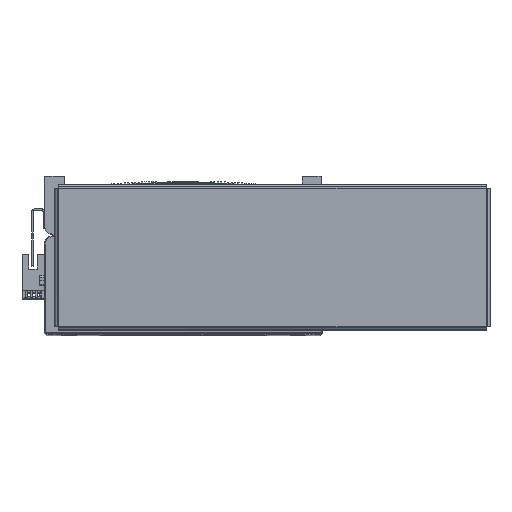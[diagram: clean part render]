
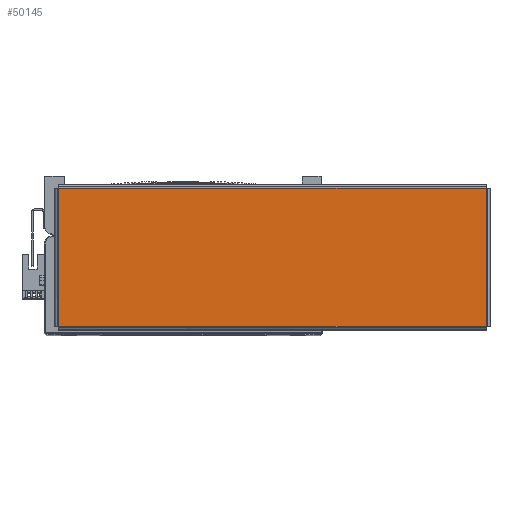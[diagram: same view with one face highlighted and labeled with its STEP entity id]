
A CAD part, top view. The second image highlights one B-rep face of the part: STEP entity #50145.
In plain terms, the highlighted planar face has unit normal (0, 0, 1) as drawn and (0, -1, 0) by its records, which use the part's own axes.
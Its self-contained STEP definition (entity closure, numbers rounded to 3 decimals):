
#6621 = EDGE_LOOP ( 'NONE', ( #52286, #52282, #52293, #52278 ) ) ;
#10077 = AXIS2_PLACEMENT_3D ( 'NONE', #57326, #57327, #57328 ) ;
#26305 = DIRECTION ( 'NONE',  ( 0., 0., -1. ) ) ;
#26311 = CARTESIAN_POINT ( 'NONE',  ( -130.863, -1.5, 42.293 ) ) ;
#26411 = DIRECTION ( 'NONE',  ( -1., 0., 0. ) ) ;
#26424 = CARTESIAN_POINT ( 'NONE',  ( 130.893, -1.5, 42.263 ) ) ;
#26488 = CARTESIAN_POINT ( 'NONE',  ( -130.893, -1.5, -42.263 ) ) ;
#26516 = DIRECTION ( 'NONE',  ( 1., 0., 0. ) ) ;
#26650 = DIRECTION ( 'NONE',  ( 0., 0., 1. ) ) ;
#26657 = CARTESIAN_POINT ( 'NONE',  ( 130.863, -1.5, -42.293 ) ) ;
#27774 = CARTESIAN_POINT ( 'NONE',  ( -130.863, -1.5, -42.263 ) ) ;
#27802 = CARTESIAN_POINT ( 'NONE',  ( 130.863, -1.5, 42.263 ) ) ;
#27854 = CARTESIAN_POINT ( 'NONE',  ( 130.863, -1.5, -42.263 ) ) ;
#27881 = CARTESIAN_POINT ( 'NONE',  ( -130.863, -1.5, 42.263 ) ) ;
#33085 = LINE ( 'NONE', #26311, #33114 ) ;
#33114 = VECTOR ( 'NONE', #26305, 1000. ) ;
#33152 = LINE ( 'NONE', #26424, #33178 ) ;
#33178 = VECTOR ( 'NONE', #26411, 1000. ) ;
#33206 = LINE ( 'NONE', #26488, #33235 ) ;
#33235 = VECTOR ( 'NONE', #26516, 1000. ) ;
#33286 = LINE ( 'NONE', #26657, #33315 ) ;
#33315 = VECTOR ( 'NONE', #26650, 1000. ) ;
#37728 = FACE_OUTER_BOUND ( 'NONE', #6621, .T. ) ;
#50145 = ADVANCED_FACE ( 'NONE', ( #37728 ), #57303, .F. ) ;
#52278 = ORIENTED_EDGE ( 'NONE', *, *, #63939, .T. ) ;
#52282 = ORIENTED_EDGE ( 'NONE', *, *, #63873, .T. ) ;
#52286 = ORIENTED_EDGE ( 'NONE', *, *, #63994, .T. ) ;
#52293 = ORIENTED_EDGE ( 'NONE', *, *, #63803, .T. ) ;
#52356 = VERTEX_POINT ( 'NONE', #27802 ) ;
#52359 = VERTEX_POINT ( 'NONE', #27774 ) ;
#52376 = VERTEX_POINT ( 'NONE', #27881 ) ;
#52378 = VERTEX_POINT ( 'NONE', #27854 ) ;
#57303 = PLANE ( 'NONE',  #10077 ) ;
#57326 = CARTESIAN_POINT ( 'NONE',  ( 0., -1.5, 0. ) ) ;
#57327 = DIRECTION ( 'NONE',  ( 0., 1., 0. ) ) ;
#57328 = DIRECTION ( 'NONE',  ( 0., 0., 1. ) ) ;
#63803 = EDGE_CURVE ( 'NONE', #52376, #52359, #33085, .T. ) ;
#63873 = EDGE_CURVE ( 'NONE', #52356, #52376, #33152, .T. ) ;
#63939 = EDGE_CURVE ( 'NONE', #52359, #52378, #33206, .T. ) ;
#63994 = EDGE_CURVE ( 'NONE', #52378, #52356, #33286, .T. ) ;
